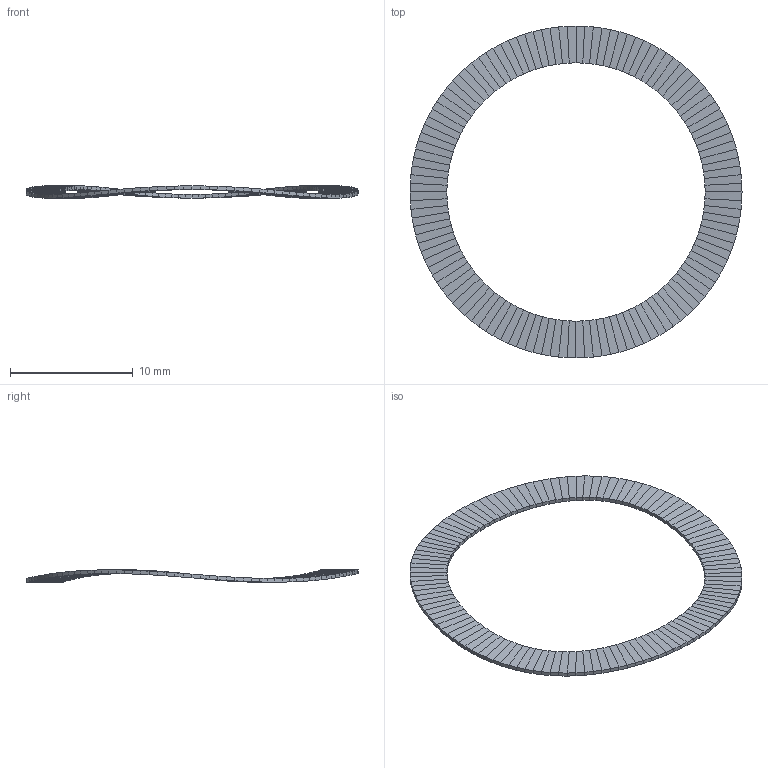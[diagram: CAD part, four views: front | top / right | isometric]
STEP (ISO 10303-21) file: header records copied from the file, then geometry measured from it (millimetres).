
FILE_DESCRIPTION(('Open CASCADE Model'),'2;1');
FILE_NAME('Open CASCADE Shape Model','2026-09-23T04:43:30',('Author'),( 'Open CASCADE'),'Open CASCADE STEP processor 7.9','Open CASCADE 7.9' ,'Unknown');
FILE_SCHEMA(('AUTOMOTIVE_DESIGN { 1 0 10303 214 1 1 1 1 }'));
Length unit declared in the file: millimetre
Products named in the file (1): Open CASCADE STEP translator 7.9 5
Bounding box: 27 x 27 x 1 mm (x, y, z)
Volume: 67.8 mm3; surface area: 498.3 mm2
Topology: 1 solids, 1 shells, 480 faces, 960 edges, 480 vertices
Faces by surface type: bspline 480
Entity records: 23058 total; most frequent: CARTESIAN_POINT 6241, DIRECTION 1922, ORIENTED_EDGE 1920, LINE 1920, VECTOR 1920, PCURVE 1920, DEFINITIONAL_REPRESENTATION 1920, EDGE_CURVE 960
